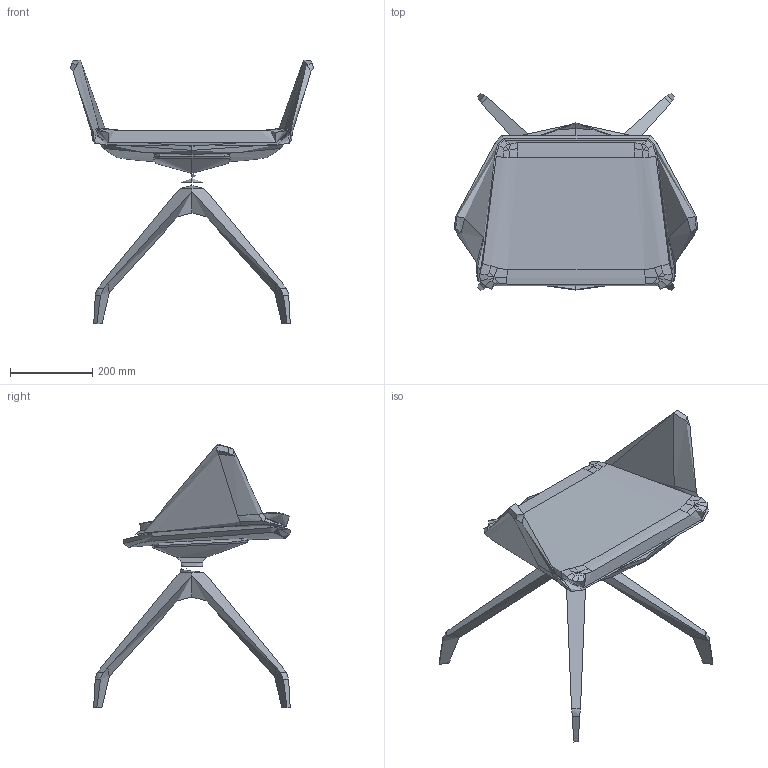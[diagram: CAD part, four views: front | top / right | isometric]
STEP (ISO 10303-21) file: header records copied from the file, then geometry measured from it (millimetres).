
FILE_DESCRIPTION(/* description */ (''),/* implementation_level */ '2;1');
FILE_NAME(/* name */ 'Wave 033-F90-BL',/* time_stamp */ '2023-01-31T10:53:51+01:00',/* author */ (''),/* organization */ (''),/* preprocessor_version */ 'ST-DEVELOPER v16.5',/* originating_system */ 'Rhino 7.26',/* authorisation */ '');
FILE_SCHEMA (('CONFIG_CONTROL_DESIGN'));
Length unit declared in the file: millimetre
Products named in the file (1): Document
Bounding box: 592.64 x 479.07 x 642.82 mm (x, y, z)
Volume: 10082528 mm3; surface area: 1631156.9 mm2
Topology: 1 solids, 7 shells, 182 faces, 467 edges, 293 vertices
Faces by surface type: bspline 156, cylinder 14, plane 12
Full cylindrical faces by diameter (mm): 28 x1, 56 x1
Entity records: 28922 total; most frequent: CARTESIAN_POINT 26017, ORIENTED_EDGE 896, EDGE_CURVE 463, B_SPLINE_CURVE_WITH_KNOTS 389, VERTEX_POINT 289, EDGE_LOOP 183, ADVANCED_FACE 182, FACE_OUTER_BOUND 182
